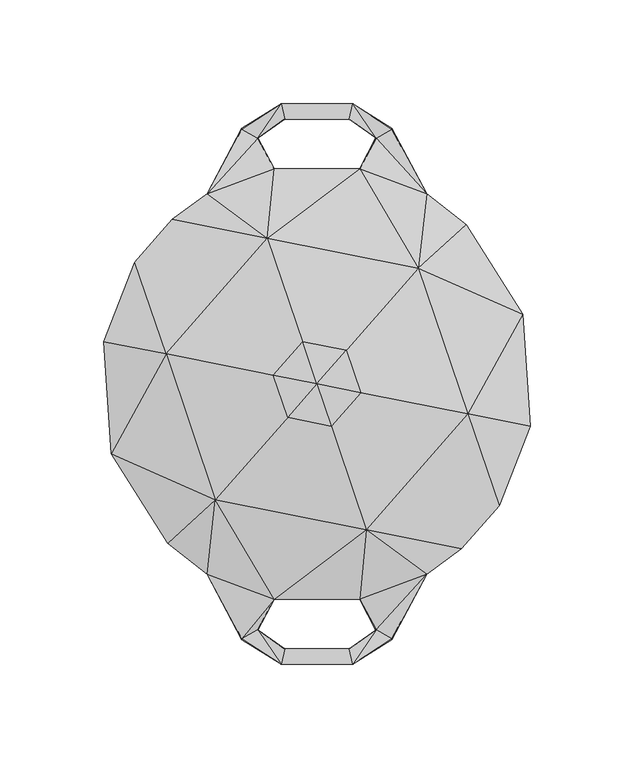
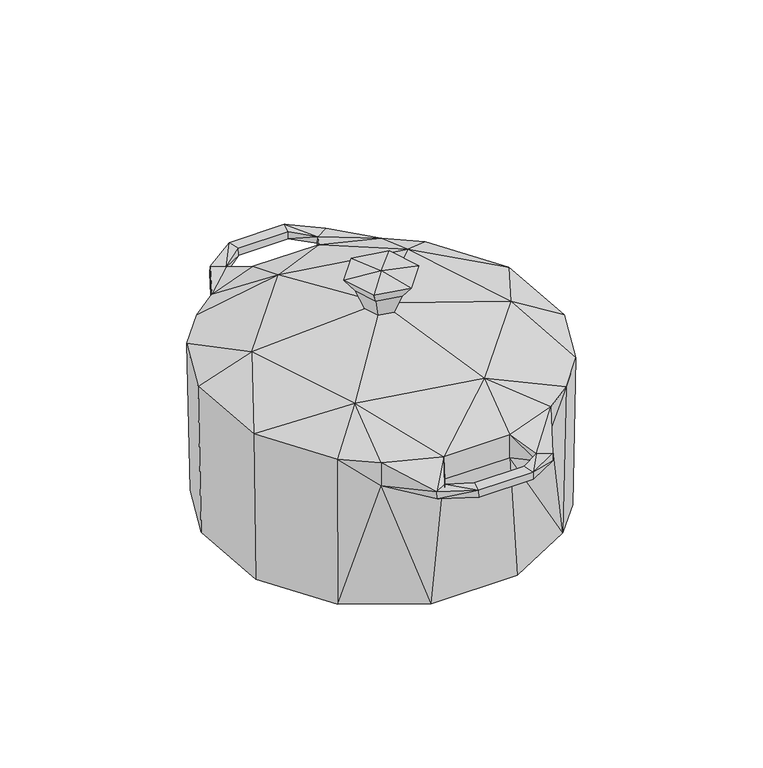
"""IFC4 building model written with IfcOpenShell, lengths in millimetres: geographic element geometry, Enscape AssetDefinition - Kitchen Tool 012 Stew Pot : Enscape AssetDefinition - Kitchen Tool 012 Stew Pot."""

import ifcopenshell
import ifcopenshell.guid

model = None  # the IFC model being written
_history = None  # IfcOwnerHistory: only IFC2X3 demands one
_inside = {}  # id of a spatial element -> (the spatial element, [elements in it])
_under = {}  # id of a project, library or spatial element -> (it, [spatial elements below it])
_declared = {}  # id of a project -> (the project, [libraries it declares])
_typed = {}  # id of a type object -> (the type object, [elements of that type])
_made_of = {}  # id of a material, layer set ... -> (it, [elements and type objects made of it])


def new_model(schema):
    """Start an empty IFC model of exactly this schema.

    Asked for "IFC4X3", IfcOpenShell would pick the latest addendum, in which some entities
    have other attributes; the version numbers below select the first issue.
    IFC2X3 requires an IfcOwnerHistory on every rooted entity: one is made here for all.
    """
    global model, _history
    if schema == "IFC4X3":
        model = ifcopenshell.file(schema_version=(4, 3, 0, 0))
    else:
        model = ifcopenshell.file(schema=schema)
    _inside.clear()
    _under.clear()
    _declared.clear()
    _typed.clear()
    _made_of.clear()
    _history = None
    if model.schema == "IFC2X3":
        org = make("IfcOrganization", Name="unknown")
        user = make(
            "IfcPersonAndOrganization",
            ThePerson=make("IfcPerson", FamilyName="unknown"),
            TheOrganization=org,
        )
        app = make(
            "IfcApplication",
            ApplicationDeveloper=org,
            Version="unknown",
            ApplicationFullName="unknown",
            ApplicationIdentifier="unknown",
        )
        _history = make(
            "IfcOwnerHistory",
            OwningUser=user,
            OwningApplication=app,
            ChangeAction="ADDED",
            CreationDate=0,
        )
    return model


def make(cls, **values):
    """One entity of the class cls with the attributes given. An attribute that is None is left unset."""
    return model.create_entity(
        cls, **{name: value for name, value in values.items() if value is not None}
    )


def rooted(cls, **values):
    """An entity with a GlobalId (a new one), such as an element, a storey or a relation."""
    return make(cls, GlobalId=ifcopenshell.guid.new(), OwnerHistory=_history, **values)


def si_unit(unit_type, name, prefix=None):
    """IfcSIUnit, for example si_unit("LENGTHUNIT", "METRE", prefix="MILLI")."""
    return make("IfcSIUnit", UnitType=unit_type, Prefix=prefix, Name=name)


def assignment(units):
    """IfcUnitAssignment: the units of a project."""
    return None if units is None else make("IfcUnitAssignment", Units=units)


def point(xyz):
    """IfcCartesianPoint."""
    return None if xyz is None else make("IfcCartesianPoint", Coordinates=xyz)


def direction(xyz):
    """IfcDirection."""
    return None if xyz is None else make("IfcDirection", DirectionRatios=xyz)


def frame(location, z_axis=None, x_axis=None):
    """IfcAxis2Placement3D, a coordinate frame: its origin and axes. An axis left out is left unset."""
    return make(
        "IfcAxis2Placement3D",
        Location=point(location),
        Axis=direction(z_axis),
        RefDirection=direction(x_axis),
    )


def origin():
    """The frame at (0, 0, 0) with its axes left unset."""
    return frame((0.0, 0.0, 0.0))


def place(relative_to, where):
    """IfcLocalPlacement: puts the frame where relative to a parent placement (None: the world)."""
    return make(
        "IfcLocalPlacement", PlacementRelTo=relative_to, RelativePlacement=where
    )


def context(
    kind, dimensions, precision=None, world=None, true_north=None, identifier=None
):
    """IfcGeometricRepresentationContext, for example the 3D "Model" context."""
    return make(
        "IfcGeometricRepresentationContext",
        ContextIdentifier=identifier,
        ContextType=kind,
        CoordinateSpaceDimension=dimensions,
        Precision=precision,
        WorldCoordinateSystem=world,
        TrueNorth=true_north,
    )


def project(units=None, contexts=None):
    """IfcProject with its units and contexts."""
    return rooted(
        "IfcProject",
        Name="project",
        RepresentationContexts=contexts,
        UnitsInContext=assignment(units),
    )


def spatial(cls, under=None, at=None, **own):
    """A site, building, storey or space (cls), placed at a placement, below another one or the project."""
    s = rooted(cls, ObjectPlacement=at, **own)
    if under is not None:
        _under.setdefault(under.id(), (under, []))[1].append(s)
    return s


def point_list(points):
    """IfcCartesianPointList2D or 3D."""
    cls = (
        "IfcCartesianPointList2D" if len(points[0]) == 2 else "IfcCartesianPointList3D"
    )
    return make(cls, CoordList=points)


def triangles(points, corners, closed=None, point_numbers=None):
    """IfcTriangulatedFaceSet: each triangle names its three corners, points numbered from 1."""
    return make(
        "IfcTriangulatedFaceSet",
        Coordinates=point_list(points),
        Closed=closed,
        CoordIndex=corners,
        PnIndex=point_numbers,
    )


def shape(context_of_items, identifier, shape_type, items):
    """IfcShapeRepresentation: the items that make up one representation, for example the "Body"."""
    return make(
        "IfcShapeRepresentation",
        ContextOfItems=context_of_items,
        RepresentationIdentifier=identifier,
        RepresentationType=shape_type,
        Items=items,
    )


def source(mapping_origin, context_of_items, identifier, shape_type, items):
    """IfcRepresentationMap: a shape defined once, which mapped items show again and again."""
    return make(
        "IfcRepresentationMap",
        MappingOrigin=mapping_origin,
        MappedRepresentation=shape(context_of_items, identifier, shape_type, items),
    )


def transform(
    local_origin,
    x_axis=None,
    y_axis=None,
    z_axis=None,
    scale=None,
    scale2=None,
    scale3=None,
    uniform=True,
):
    """IfcCartesianTransformationOperator3D, or its non-uniform kind. x_axis, y_axis, z_axis: its Axis1, 2, 3."""
    if uniform:
        return make(
            "IfcCartesianTransformationOperator3D",
            Axis1=direction(x_axis),
            Axis2=direction(y_axis),
            LocalOrigin=point(local_origin),
            Scale=scale,
            Axis3=direction(z_axis),
        )
    return make(
        "IfcCartesianTransformationOperator3DnonUniform",
        Axis1=direction(x_axis),
        Axis2=direction(y_axis),
        LocalOrigin=point(local_origin),
        Scale=scale,
        Axis3=direction(z_axis),
        Scale2=scale2,
        Scale3=scale3,
    )


def mapped(mapping_source, mapping_target):
    """IfcMappedItem: shows the shape of a source again, moved by a transform."""
    return make(
        "IfcMappedItem", MappingSource=mapping_source, MappingTarget=mapping_target
    )


def made_of(thing, what):
    """Note that an element or type object is made of a material, layer set ...; save() writes the relation."""
    if what is not None:
        _made_of.setdefault(what.id(), (what, []))[1].append(thing)
    return thing


def element(
    cls,
    number,
    at=None,
    inside=None,
    cuts=None,
    type_object=None,
    material=None,
    context=None,
    identifier="Body",
    shape_type=None,
    held_by="IfcProductDefinitionShape",
    body=None,
    shapes=None,
    **own,
):
    """One element of the class cls, such as IfcWall. Its Tag is "e" and its number.

    at: its placement. inside: the storey or other place that contains it. cuts: it is an
    opening in that element (IfcRelVoidsElement). A single representation is given by context,
    identifier, shape_type and body (its items); several are given by shapes. held_by: the class
    of the entity that holds the representations. save() writes the other relations.
    """
    e = rooted(cls, Tag="e%d" % number, ObjectPlacement=at, **own)
    if body is not None:
        shapes = [shape(context, identifier, shape_type, body)]
    if shapes is not None:
        e.Representation = make(held_by, Representations=shapes)
    if inside is not None:
        _inside.setdefault(inside.id(), (inside, []))[1].append(e)
    if cuts is not None:
        rooted(
            "IfcRelVoidsElement", RelatingBuildingElement=cuts, RelatedOpeningElement=e
        )
    if type_object is not None:
        _typed.setdefault(type_object.id(), (type_object, []))[1].append(e)
    return made_of(e, material)


def aggregate(whole, parts):
    """IfcRelAggregates: a whole, such as a stair, and the parts it consists of."""
    return rooted("IfcRelAggregates", RelatingObject=whole, RelatedObjects=parts)


def save(model, path):
    """Write the relations noted so far, then the file.

    IfcRelAggregates (storeys below a building ...), IfcRelContainedInSpatialStructure (elements
    in a storey), IfcRelDefinesByType, IfcRelAssociatesMaterial and IfcRelDeclares: one each for
    every whole, place, type object, material and project.
    """
    for whole, parts in _under.values():
        aggregate(whole, parts)
    for where, things in _inside.values():
        rooted(
            "IfcRelContainedInSpatialStructure",
            RelatedElements=things,
            RelatingStructure=where,
        )
    for kind, things in _typed.values():
        rooted("IfcRelDefinesByType", RelatedObjects=things, RelatingType=kind)
    for what, things in _made_of.values():
        rooted("IfcRelAssociatesMaterial", RelatedObjects=things, RelatingMaterial=what)
    for by, libraries in _declared.values():
        rooted("IfcRelDeclares", RelatingContext=by, RelatedDefinitions=libraries)
    model.write(path)


def geographic_element_c0f8f7ac(model_context):
    return source(origin(), model_context, "Body", "Tessellation", [
        triangles([(86.3204851, -57.6777476, 0.000971), (102.7547563, -20.4396726, 97.1209795), (99.2076709, 33.6773957, 97.1209795), (87.8634051, -58.7089528, 97.1209795), (52.9508877, -91.7134426, 82.0033885), (68.4510544, -78.0543018, 0.000971), (69.6745217, -79.4486662, 97.1209795), (36.1864744, -122.8739952, 90.9230475), (36.1719087, -123.2750154, 86.4573953), (52.9508877, -91.7134426, 97.1209795), (28.5116454, -118.385997, 90.6433953), (-17.1654414, -135.0387505, 92.6135694), (17.1654414, -135.0387505, 92.6135694), (20.615425, -103.6422566, 97.1209795), (28.4407604, -118.7763529, 86.1719204), (15.5827016, -127.7154239, 92.6135694), (17.0285289, -135.0824524, 88.1275241), (-17.0285289, -135.0824524, 88.1275241), (15.4253984, -127.7494153, 88.1284961), (-15.5827016, -127.7154239, 92.6135694), (-15.4253984, -127.7494153, 88.1284961), (-28.5116454, -118.385997, 90.6433953), (-28.4407604, -118.7763529, 86.1719204), (-52.9508877, -91.7134426, 82.0033885), (-36.1719087, -123.2750154, 86.4573953), (-20.615425, -103.6422566, 97.1209795), (-52.9508877, -91.7134426, 97.1209795), (-36.1864744, -122.8739952, 90.9230475), (-70.6940815, -75.4957052, 0.000971), (-48.8862602, -55.7435043, 113.1260709), (-71.9573629, -76.8444283, 97.1209795), (-99.2076709, -33.6773957, 97.1209795), (-26.9347318, -100.5233791, 0.0), (26.9347318, -100.5233791, 0.0), (20.615425, -103.6422566, 82.0033885), (-20.615425, -103.6422566, 82.0033885), (23.8323684, -70.2085779, 113.1260709), (3.0033212, -8.8487763, 126.7531643), (14.74181, -2.9324373, 140.087007), (72.7186264, -14.4650736, 113.1260709), (9.1653245, -1.8225781, 126.7531643), (6.1610321, 7.0252275, 126.7531643), (9.9100851, 11.3005661, 140.087007), (-14.74181, 2.9324373, 140.087007), (-21.0805378, 4.1928034, 148.35706), (-6.9087063, 20.3522824, 148.35706), (-4.8317255, 14.2330043, 140.087007), (14.171831, 16.1594799, 148.35706), (4.8317255, -14.2330043, 140.087007), (21.0805378, -4.1928034, 148.35706), (0.0, 0.0, 150.0000102), (-14.171831, -16.1594799, 148.35706), (-9.9100851, -11.3005661, 140.087007), (6.9087063, -20.3522824, 148.35706), (-9.1653245, 1.8225781, 126.7531643), (-6.1610321, -7.0252275, 126.7531643), (-3.0033212, 8.8487763, 126.7531643), (-102.7547563, 20.4396726, 97.1209795), (-97.4656805, -33.086055, 0.000971), (-100.9506241, 20.0804036, 0.000971), (-86.3204851, 57.6777476, 0.000971), (-69.6745217, 79.4486662, 97.1209795), (-87.8634051, 58.7089528, 97.1209795), (-68.4510544, 78.0543018, 0.000971), (-26.9347318, 100.5233791, 0.0), (-20.615425, 103.6422566, 82.0033885), (-72.7186264, 14.4650736, 113.1260709), (-52.9508877, 91.7134426, 82.0033885), (-52.9508877, 91.7134426, 97.1209795), (-36.1864744, 122.8739952, 90.9230475), (-28.5116454, 118.385997, 90.6433953), (-17.1654414, 135.0387505, 92.6135694), (-36.1719087, 123.2750154, 86.4573953), (15.5827016, 127.7154239, 92.6135694), (-15.5827016, 127.7154239, 92.6135694), (-15.4253984, 127.7494153, 88.1284961), (15.4253984, 127.7494153, 88.1284961), (-17.0285289, 135.0824524, 88.1275241), (17.0285289, 135.0824524, 88.1275241), (28.4407604, 118.7763529, 86.1719204), (36.1719087, 123.2750154, 86.4573953), (52.9508877, 91.7134426, 82.0033885), (28.5116454, 118.385997, 90.6433953), (20.615425, 103.6422566, 97.1209795), (36.1864744, 122.8739952, 90.9230475), (17.1654414, 135.0387505, 92.6135694), (52.9508877, 91.7134426, 97.1209795), (71.9573629, 76.8444283, 97.1209795), (48.8862602, 55.7435043, 113.1260709), (70.6940815, 75.4957052, 0.000971), (-23.8323684, 70.2085779, 113.1260709), (20.615425, 103.6422566, 82.0033885), (-20.615425, 103.6422566, 97.1209795), (-28.4407604, 118.7763529, 86.1719204), (26.9347318, 100.5233791, 0.0), (97.4656805, 33.086055, 0.000971), (100.9506241, -20.0804036, 0.000971)], [[90, 96, 97], [97, 96, 3], [65, 90, 97], [65, 95, 90], [82, 90, 95], [92, 95, 65], [65, 66, 92], [95, 92, 82], [93, 66, 94], [93, 84, 92], [92, 66, 93], [57, 91, 67], [84, 93, 91], [84, 91, 89], [88, 90, 82], [88, 3, 96], [96, 90, 88], [3, 88, 89], [83, 84, 87], [87, 88, 82], [87, 84, 89], [88, 87, 89], [83, 85, 86], [85, 87, 82], [87, 85, 83], [86, 85, 81], [82, 81, 85], [80, 92, 84], [84, 83, 80], [80, 81, 82], [82, 92, 80], [81, 79, 86], [79, 81, 80], [86, 79, 78], [78, 76, 94], [77, 80, 83], [80, 77, 79], [77, 76, 78], [78, 79, 77], [83, 74, 77], [86, 74, 83], [77, 74, 75], [75, 76, 77], [76, 75, 71], [71, 94, 76], [94, 71, 93], [78, 72, 86], [71, 75, 72], [72, 75, 74], [74, 86, 72], [72, 78, 73], [94, 73, 78], [73, 70, 72], [72, 70, 71], [71, 70, 69], [69, 93, 71], [69, 91, 93], [94, 66, 68], [68, 73, 94], [68, 69, 70], [70, 73, 68], [69, 68, 62], [69, 62, 91], [67, 91, 62], [62, 68, 64], [64, 68, 66], [66, 65, 64], [63, 62, 64], [62, 63, 67], [61, 64, 65], [64, 61, 63], [61, 65, 59], [65, 97, 59], [60, 61, 59], [58, 63, 61], [61, 60, 58], [58, 60, 59], [63, 58, 67], [59, 32, 58], [58, 32, 67], [32, 30, 67], [55, 67, 30], [30, 56, 55], [67, 55, 57], [55, 56, 53], [49, 53, 56], [53, 49, 54], [54, 52, 53], [44, 53, 52], [53, 44, 55], [57, 55, 44], [52, 45, 44], [45, 52, 51], [52, 54, 51], [54, 50, 51], [50, 54, 49], [50, 48, 51], [48, 46, 51], [46, 45, 51], [45, 46, 47], [47, 44, 45], [44, 47, 57], [42, 57, 47], [42, 89, 91], [91, 57, 42], [46, 48, 43], [43, 47, 46], [47, 43, 42], [49, 39, 50], [48, 50, 39], [39, 43, 48], [43, 39, 41], [41, 42, 43], [89, 42, 41], [41, 40, 89], [3, 89, 40], [56, 38, 49], [39, 49, 38], [38, 41, 39], [40, 41, 38], [56, 30, 37], [37, 38, 56], [38, 37, 40], [26, 37, 30], [14, 26, 36], [14, 37, 26], [14, 35, 15], [36, 35, 14], [34, 35, 36], [97, 33, 59], [36, 33, 34], [33, 29, 59], [31, 32, 59], [59, 29, 31], [32, 31, 30], [27, 26, 30], [31, 27, 30], [33, 36, 24], [24, 29, 33], [24, 27, 31], [31, 29, 24], [28, 27, 24], [26, 27, 28], [12, 28, 25], [24, 25, 28], [23, 36, 26], [23, 25, 24], [24, 36, 23], [22, 28, 12], [26, 22, 23], [28, 22, 26], [12, 20, 22], [22, 20, 21], [21, 23, 22], [25, 18, 12], [23, 21, 18], [18, 25, 23], [17, 19, 15], [19, 21, 20], [19, 17, 18], [18, 21, 19], [20, 16, 19], [16, 20, 12], [19, 16, 11], [11, 15, 19], [15, 11, 14], [11, 16, 13], [13, 12, 18], [18, 17, 13], [12, 13, 16], [13, 17, 9], [15, 9, 17], [9, 8, 13], [13, 8, 11], [11, 8, 10], [10, 14, 11], [10, 37, 14], [15, 35, 5], [5, 9, 15], [5, 10, 8], [8, 9, 5], [10, 5, 7], [10, 7, 37], [40, 37, 7], [97, 6, 33], [6, 34, 33], [7, 5, 6], [6, 5, 35], [35, 34, 6], [97, 1, 6], [4, 7, 6], [6, 1, 4], [7, 4, 40], [3, 2, 97], [2, 4, 1], [1, 97, 2], [4, 2, 40], [2, 3, 40]]),
    ])


if __name__ == "__main__":
    model = new_model("IFC4")
    model_context = context("Model", 3, world=origin())
    ifc_project = project(units=[si_unit("LENGTHUNIT", "METRE", prefix="MILLI")], contexts=[model_context])
    site = spatial("IfcSite", under=ifc_project)
    building = spatial("IfcBuilding", under=site)
    placement = place(None, origin())
    geographic_element_shape = geographic_element_c0f8f7ac(model_context)
    element("IfcGeographicElement", 1, ObjectType="Enscape AssetDefinition - Kitchen Tool 012 Stew Pot : Enscape AssetDefinition - Kitchen Tool 012 Stew Pot", at=placement, inside=building, context=model_context, shape_type="MappedRepresentation", body=[
        mapped(geographic_element_shape, transform((0.0, 0.0, 0.0), x_axis=(1.0, 0.0, 0.0), y_axis=(0.0, 1.0, 0.0), z_axis=(0.0, 0.0, 1.0))),
    ])
    save(model, "model.ifc")
